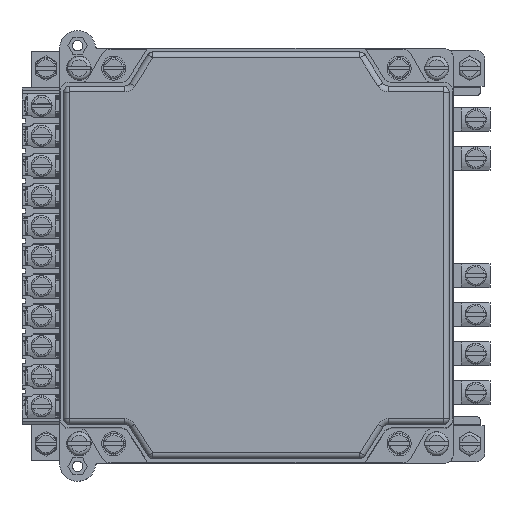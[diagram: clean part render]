
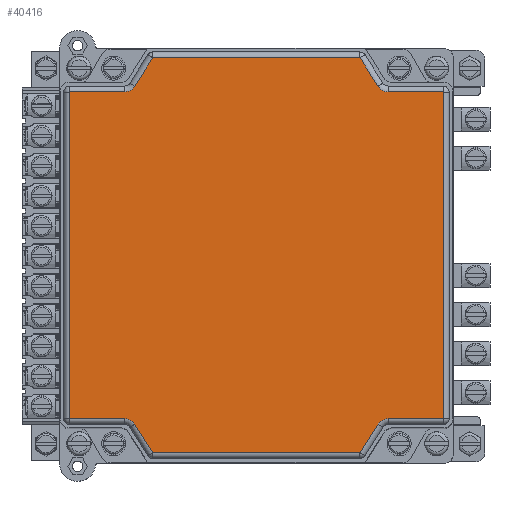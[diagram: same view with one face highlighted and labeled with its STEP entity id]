
A CAD part, top view. The second image highlights one B-rep face of the part: STEP entity #40416.
In plain terms, the highlighted planar face has unit normal (0, 0, 1).
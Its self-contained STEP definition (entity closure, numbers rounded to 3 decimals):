
#40416=ADVANCED_FACE('',(#106462),#106464,.T.);
#106462=FACE_BOUND('',#106463,.T.);
#106463=EDGE_LOOP('',(#159506,#159507,#159508,#159509,#159510,#159511,#159512,#159513,
#159514,#159515,#159516,#159517,#159518,#159519,#159520,#159521,#159522,#159523,
#159524,#159525,#159526,#159527,#159528,#159529));
#106464=PLANE('',#106465);
#106465=AXIS2_PLACEMENT_3D('',#106466,#106467,#106468);
#106466=CARTESIAN_POINT('',(0.,0.,156.5));
#106467=DIRECTION('',(0.,0.,1.));
#106468=DIRECTION('',(1.,0.,0.));
#159506=ORIENTED_EDGE('',*,*,#185343,.T.);
#159507=ORIENTED_EDGE('',*,*,#185390,.T.);
#159508=ORIENTED_EDGE('',*,*,#185388,.T.);
#159509=ORIENTED_EDGE('',*,*,#185386,.T.);
#159510=ORIENTED_EDGE('',*,*,#185384,.T.);
#159511=ORIENTED_EDGE('',*,*,#185382,.T.);
#159512=ORIENTED_EDGE('',*,*,#185380,.T.);
#159513=ORIENTED_EDGE('',*,*,#185378,.T.);
#159514=ORIENTED_EDGE('',*,*,#185376,.T.);
#159515=ORIENTED_EDGE('',*,*,#185374,.T.);
#159516=ORIENTED_EDGE('',*,*,#185372,.T.);
#159517=ORIENTED_EDGE('',*,*,#185370,.T.);
#159518=ORIENTED_EDGE('',*,*,#185368,.T.);
#159519=ORIENTED_EDGE('',*,*,#185366,.T.);
#159520=ORIENTED_EDGE('',*,*,#185364,.T.);
#159521=ORIENTED_EDGE('',*,*,#185362,.T.);
#159522=ORIENTED_EDGE('',*,*,#185360,.T.);
#159523=ORIENTED_EDGE('',*,*,#185358,.T.);
#159524=ORIENTED_EDGE('',*,*,#185356,.T.);
#159525=ORIENTED_EDGE('',*,*,#185354,.T.);
#159526=ORIENTED_EDGE('',*,*,#185352,.T.);
#159527=ORIENTED_EDGE('',*,*,#185350,.T.);
#159528=ORIENTED_EDGE('',*,*,#185348,.T.);
#159529=ORIENTED_EDGE('',*,*,#185346,.T.);
#185343=EDGE_CURVE('',#212864,#212865,#212866,.T.);
#185346=EDGE_CURVE('',#212869,#212864,#212870,.T.);
#185348=EDGE_CURVE('',#212872,#212869,#212873,.T.);
#185350=EDGE_CURVE('',#212875,#212872,#212876,.T.);
#185352=EDGE_CURVE('',#212878,#212875,#212879,.T.);
#185354=EDGE_CURVE('',#212881,#212878,#212882,.T.);
#185356=EDGE_CURVE('',#212884,#212881,#212885,.T.);
#185358=EDGE_CURVE('',#212887,#212884,#212888,.T.);
#185360=EDGE_CURVE('',#212890,#212887,#212891,.T.);
#185362=EDGE_CURVE('',#212893,#212890,#212894,.T.);
#185364=EDGE_CURVE('',#212896,#212893,#212897,.T.);
#185366=EDGE_CURVE('',#212899,#212896,#212900,.T.);
#185368=EDGE_CURVE('',#212902,#212899,#212903,.T.);
#185370=EDGE_CURVE('',#212905,#212902,#212906,.T.);
#185372=EDGE_CURVE('',#212908,#212905,#212909,.T.);
#185374=EDGE_CURVE('',#212911,#212908,#212912,.T.);
#185376=EDGE_CURVE('',#212914,#212911,#212915,.T.);
#185378=EDGE_CURVE('',#212917,#212914,#212918,.T.);
#185380=EDGE_CURVE('',#212920,#212917,#212921,.T.);
#185382=EDGE_CURVE('',#212923,#212920,#212924,.T.);
#185384=EDGE_CURVE('',#212926,#212923,#212927,.T.);
#185386=EDGE_CURVE('',#212929,#212926,#212930,.T.);
#185388=EDGE_CURVE('',#212932,#212929,#212933,.T.);
#185390=EDGE_CURVE('',#212865,#212932,#212935,.T.);
#212864=VERTEX_POINT('',#269934);
#212865=VERTEX_POINT('',#269935);
#212866=LINE('',#269936,#269937);
#212869=VERTEX_POINT('',#269947);
#212870=CIRCLE('',#269948,0.064);
#212872=VERTEX_POINT('',#269956);
#212873=LINE('',#269957,#269958);
#212875=VERTEX_POINT('',#269964);
#212876=CIRCLE('',#269965,3.936);
#212878=VERTEX_POINT('',#269973);
#212879=LINE('',#269974,#269975);
#212881=VERTEX_POINT('',#269981);
#212882=CIRCLE('',#269982,0.064);
#212884=VERTEX_POINT('',#269990);
#212885=LINE('',#269991,#269992);
#212887=VERTEX_POINT('',#269998);
#212888=CIRCLE('',#269999,0.064);
#212890=VERTEX_POINT('',#270007);
#212891=LINE('',#270008,#270009);
#212893=VERTEX_POINT('',#270015);
#212894=CIRCLE('',#270016,3.936);
#212896=VERTEX_POINT('',#270024);
#212897=LINE('',#270025,#270026);
#212899=VERTEX_POINT('',#270032);
#212900=CIRCLE('',#270033,0.064);
#212902=VERTEX_POINT('',#270041);
#212903=LINE('',#270042,#270043);
#212905=VERTEX_POINT('',#270049);
#212906=CIRCLE('',#270050,0.064);
#212908=VERTEX_POINT('',#270058);
#212909=LINE('',#270059,#270060);
#212911=VERTEX_POINT('',#270066);
#212912=CIRCLE('',#270067,3.936);
#212914=VERTEX_POINT('',#270075);
#212915=LINE('',#270076,#270077);
#212917=VERTEX_POINT('',#270083);
#212918=CIRCLE('',#270084,0.064);
#212920=VERTEX_POINT('',#270092);
#212921=LINE('',#270093,#270094);
#212923=VERTEX_POINT('',#270100);
#212924=CIRCLE('',#270101,0.064);
#212926=VERTEX_POINT('',#270109);
#212927=LINE('',#270110,#270111);
#212929=VERTEX_POINT('',#270117);
#212930=CIRCLE('',#270118,3.936);
#212932=VERTEX_POINT('',#270126);
#212933=LINE('',#270127,#270128);
#212935=CIRCLE('',#270134,0.064);
#269934=CARTESIAN_POINT('',(-62.214,54.3,156.5));
#269935=CARTESIAN_POINT('',(-62.214,-54.3,156.5));
#269936=CARTESIAN_POINT('',(-62.214,54.3,156.5));
#269937=VECTOR('',#269938,1.);
#269938=DIRECTION('',(0.,-1.,0.));
#269947=CARTESIAN_POINT('',(-62.15,54.364,156.5));
#269948=AXIS2_PLACEMENT_3D('',#269949,#269950,#269951);
#269949=CARTESIAN_POINT('',(-62.15,54.3,156.5));
#269950=DIRECTION('',(0.,0.,1.));
#269951=DIRECTION('',(0.,1.,0.));
#269956=CARTESIAN_POINT('',(-43.822,54.364,156.5));
#269957=CARTESIAN_POINT('',(-43.822,54.364,156.5));
#269958=VECTOR('',#269959,1.);
#269959=DIRECTION('',(-1.,0.,0.));
#269964=CARTESIAN_POINT('',(-40.492,56.201,156.5));
#269965=AXIS2_PLACEMENT_3D('',#269966,#269967,#269968);
#269966=CARTESIAN_POINT('',(-43.822,58.3,156.5));
#269967=DIRECTION('',(0.,0.,-1.));
#269968=DIRECTION('',(0.846,-0.533,0.));
#269973=CARTESIAN_POINT('',(-34.513,65.684,156.5));
#269974=CARTESIAN_POINT('',(-34.513,65.684,156.5));
#269975=VECTOR('',#269976,1.);
#269976=DIRECTION('',(-0.533,-0.846,0.));
#269981=CARTESIAN_POINT('',(-34.46,65.714,156.5));
#269982=AXIS2_PLACEMENT_3D('',#269983,#269984,#269985);
#269983=CARTESIAN_POINT('',(-34.46,65.65,156.5));
#269984=DIRECTION('',(0.,0.,1.));
#269985=DIRECTION('',(0.,1.,0.));
#269990=CARTESIAN_POINT('',(34.46,65.714,156.5));
#269991=CARTESIAN_POINT('',(34.46,65.714,156.5));
#269992=VECTOR('',#269993,1.);
#269993=DIRECTION('',(-1.,0.,0.));
#269998=CARTESIAN_POINT('',(34.513,65.684,156.5));
#269999=AXIS2_PLACEMENT_3D('',#270000,#270001,#270002);
#270000=CARTESIAN_POINT('',(34.46,65.65,156.5));
#270001=DIRECTION('',(0.,0.,1.));
#270002=DIRECTION('',(0.846,0.533,0.));
#270007=CARTESIAN_POINT('',(40.492,56.201,156.5));
#270008=CARTESIAN_POINT('',(40.492,56.201,156.5));
#270009=VECTOR('',#270010,1.);
#270010=DIRECTION('',(-0.533,0.846,0.));
#270015=CARTESIAN_POINT('',(43.822,54.364,156.5));
#270016=AXIS2_PLACEMENT_3D('',#270017,#270018,#270019);
#270017=CARTESIAN_POINT('',(43.822,58.3,156.5));
#270018=DIRECTION('',(0.,0.,-1.));
#270019=DIRECTION('',(0.,-1.,0.));
#270024=CARTESIAN_POINT('',(62.15,54.364,156.5));
#270025=CARTESIAN_POINT('',(62.15,54.364,156.5));
#270026=VECTOR('',#270027,1.);
#270027=DIRECTION('',(-1.,0.,0.));
#270032=CARTESIAN_POINT('',(62.214,54.3,156.5));
#270033=AXIS2_PLACEMENT_3D('',#270034,#270035,#270036);
#270034=CARTESIAN_POINT('',(62.15,54.3,156.5));
#270035=DIRECTION('',(0.,0.,1.));
#270036=DIRECTION('',(1.,0.,0.));
#270041=CARTESIAN_POINT('',(62.214,-54.3,156.5));
#270042=CARTESIAN_POINT('',(62.214,-54.3,156.5));
#270043=VECTOR('',#270044,1.);
#270044=DIRECTION('',(0.,1.,0.));
#270049=CARTESIAN_POINT('',(62.15,-54.364,156.5));
#270050=AXIS2_PLACEMENT_3D('',#270051,#270052,#270053);
#270051=CARTESIAN_POINT('',(62.15,-54.3,156.5));
#270052=DIRECTION('',(0.,0.,1.));
#270053=DIRECTION('',(0.,-1.,0.));
#270058=CARTESIAN_POINT('',(43.822,-54.364,156.5));
#270059=CARTESIAN_POINT('',(43.822,-54.364,156.5));
#270060=VECTOR('',#270061,1.);
#270061=DIRECTION('',(1.,0.,0.));
#270066=CARTESIAN_POINT('',(40.492,-56.201,156.5));
#270067=AXIS2_PLACEMENT_3D('',#270068,#270069,#270070);
#270068=CARTESIAN_POINT('',(43.822,-58.3,156.5));
#270069=DIRECTION('',(0.,0.,-1.));
#270070=DIRECTION('',(-0.846,0.533,0.));
#270075=CARTESIAN_POINT('',(34.513,-65.684,156.5));
#270076=CARTESIAN_POINT('',(34.513,-65.684,156.5));
#270077=VECTOR('',#270078,1.);
#270078=DIRECTION('',(0.533,0.846,0.));
#270083=CARTESIAN_POINT('',(34.46,-65.714,156.5));
#270084=AXIS2_PLACEMENT_3D('',#270085,#270086,#270087);
#270085=CARTESIAN_POINT('',(34.46,-65.65,156.5));
#270086=DIRECTION('',(0.,0.,1.));
#270087=DIRECTION('',(0.,-1.,0.));
#270092=CARTESIAN_POINT('',(-34.46,-65.714,156.5));
#270093=CARTESIAN_POINT('',(-34.46,-65.714,156.5));
#270094=VECTOR('',#270095,1.);
#270095=DIRECTION('',(1.,0.,0.));
#270100=CARTESIAN_POINT('',(-34.513,-65.684,156.5));
#270101=AXIS2_PLACEMENT_3D('',#270102,#270103,#270104);
#270102=CARTESIAN_POINT('',(-34.46,-65.65,156.5));
#270103=DIRECTION('',(0.,0.,1.));
#270104=DIRECTION('',(-0.846,-0.533,0.));
#270109=CARTESIAN_POINT('',(-40.492,-56.201,156.5));
#270110=CARTESIAN_POINT('',(-40.492,-56.201,156.5));
#270111=VECTOR('',#270112,1.);
#270112=DIRECTION('',(0.533,-0.846,0.));
#270117=CARTESIAN_POINT('',(-43.822,-54.364,156.5));
#270118=AXIS2_PLACEMENT_3D('',#270119,#270120,#270121);
#270119=CARTESIAN_POINT('',(-43.822,-58.3,156.5));
#270120=DIRECTION('',(0.,0.,-1.));
#270121=DIRECTION('',(0.,1.,0.));
#270126=CARTESIAN_POINT('',(-62.15,-54.364,156.5));
#270127=CARTESIAN_POINT('',(-62.15,-54.364,156.5));
#270128=VECTOR('',#270129,1.);
#270129=DIRECTION('',(1.,0.,0.));
#270134=AXIS2_PLACEMENT_3D('',#270135,#270136,#270137);
#270135=CARTESIAN_POINT('',(-62.15,-54.3,156.5));
#270136=DIRECTION('',(0.,0.,1.));
#270137=DIRECTION('',(-1.,0.,0.));
